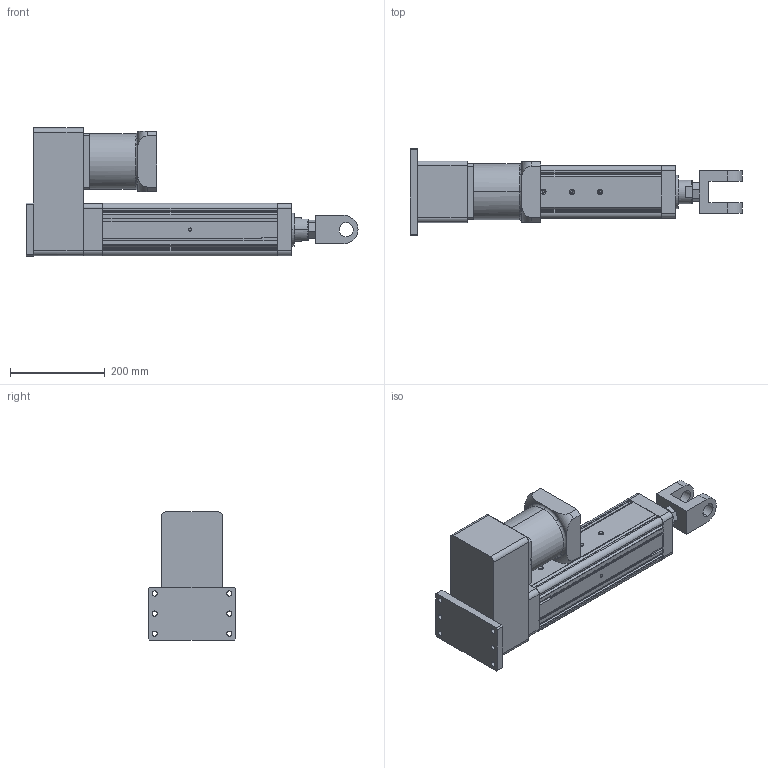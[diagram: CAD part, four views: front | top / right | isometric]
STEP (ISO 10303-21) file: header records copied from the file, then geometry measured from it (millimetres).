
FILE_DESCRIPTION (( 'STEP AP203' ), '1' );
FILE_NAME ('YRJ110-L200-H4K4.STEP', '2020-01-06T01:43:21', ( 'User' ), ( 'China' ), 'SwSTEP 2.0', 'SolidWorks 2016', '' );
FILE_SCHEMA (( 'CONFIG_CONTROL_DESIGN' ));
Length unit declared in the file: millimetre
Products named in the file (8): H4-110; 120遺1500W珨撰熬厒儂; YRJ110-L200-H4K4; 095-100俴最倰第; H5-110-1; 萇儂碟-110; K4-110; H3-110-2
Assembly tree (7 placements, depth 2):
  YRJ110-L200-H4K4
    095-100俴最倰第
    H5-110-1
    萇儂碟-110
    K4-110
    H3-110-2
    H4-110
    120遺1500W珨撰熬厒儂
Bounding box: 702 x 185 x 271 mm (x, y, z)
Volume: 8507421.6 mm3; surface area: 782943.7 mm2
Topology: 7 solids, 7 shells, 340 faces, 919 edges, 589 vertices
Faces by surface type: plane 174, cylinder 128, cone 29, torus 5, bspline 4
Entity records: 11853 total; most frequent: CARTESIAN_POINT 2306, DIRECTION 1845, ORIENTED_EDGE 1806, EDGE_CURVE 903, AXIS2_PLACEMENT_3D 634, VERTEX_POINT 589, LINE 577, VECTOR 577
